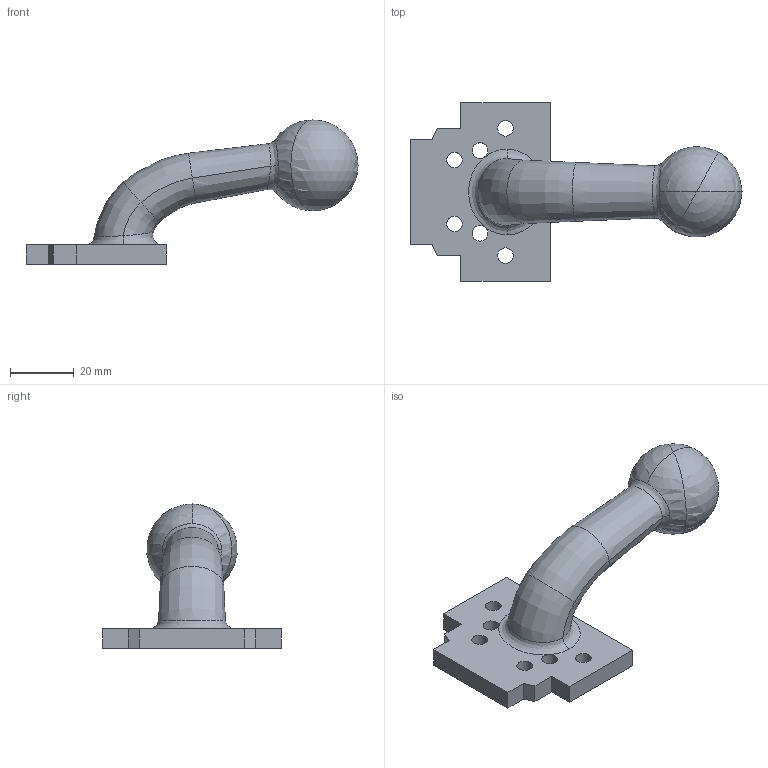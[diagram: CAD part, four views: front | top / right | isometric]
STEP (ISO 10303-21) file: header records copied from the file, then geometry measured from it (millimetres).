
FILE_DESCRIPTION(('STEP AP214'),'1');
FILE_NAME('EGT191_1706247_INITIATORANB.CATPart.stp','2015-09-14T13:12:05',('3D-Tool'),(' '),'Spatial InterOp 3D',' ',' ');
FILE_SCHEMA(('automotive_design'));
Length unit declared in the file: millimetre
Products named in the file (1): EGT191_1706247_INITIATORANB|EGT191_INITIATORANB|Bohrbearbeitung
Bounding box: 104.25 x 56 x 45.25 mm (x, y, z)
Volume: 38338.9 mm3; surface area: 11025.2 mm2
Topology: 1 solids, 1 shells, 57 faces, 156 edges, 94 vertices
Faces by surface type: cylinder 24, plane 15, bspline 13, sphere 4, torus 1
Entity records: 3836 total; most frequent: CARTESIAN_POINT 1988, ORIENTED_EDGE 296, DIRECTION 261, EDGE_CURVE 148, AXIS2_PLACEMENT_3D 99, VERTEX_POINT 94, EDGE_LOOP 70, LINE 63
